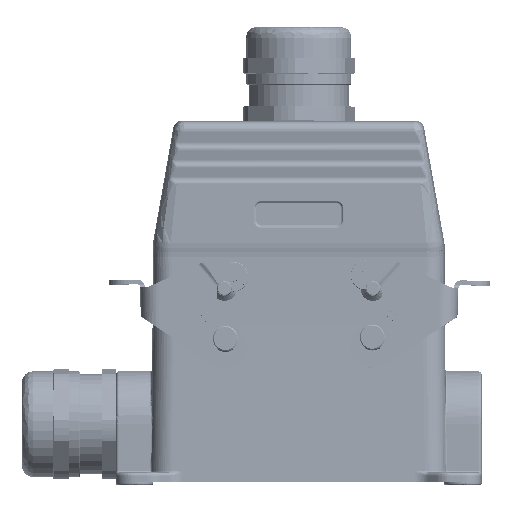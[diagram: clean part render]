
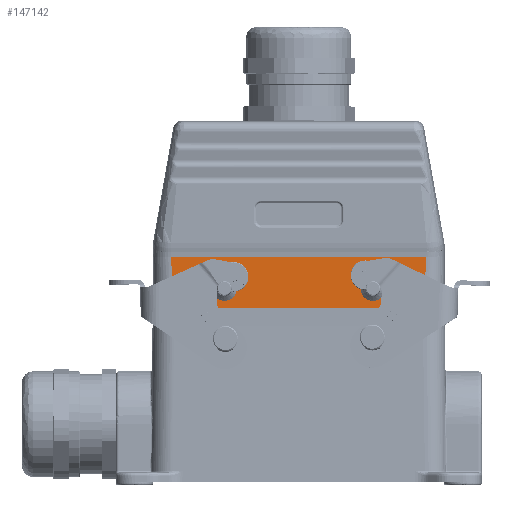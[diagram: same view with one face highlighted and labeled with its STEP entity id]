
A CAD part, top view. The second image highlights one B-rep face of the part: STEP entity #147142.
In plain terms, the highlighted planar face has unit normal (0, 0, 1) as drawn and (0, -1, 0) by its records, which use the part's own axes.
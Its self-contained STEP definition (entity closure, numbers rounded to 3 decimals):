
#768 = VERTEX_POINT ( 'NONE', #114945 ) ;
#1514 = EDGE_CURVE ( 'NONE', #307071, #9452, #224453, .T. ) ;
#1857 = CARTESIAN_POINT ( 'NONE',  ( -40.331, -21.5, 6.744 ) ) ;
#2270 = DIRECTION ( 'NONE',  ( 0., 0., 1. ) ) ;
#3456 = CARTESIAN_POINT ( 'NONE',  ( -40.44, -21.5, 8.473 ) ) ;
#4784 = VERTEX_POINT ( 'NONE', #250731 ) ;
#6604 = CARTESIAN_POINT ( 'NONE',  ( -39.889, -21.5, 0. ) ) ;
#8212 = LINE ( 'NONE', #34004, #32474 ) ;
#9192 = ORIENTED_EDGE ( 'NONE', *, *, #13686, .T. ) ;
#9452 = VERTEX_POINT ( 'NONE', #113383 ) ;
#13218 = CARTESIAN_POINT ( 'NONE',  ( -23.75, -21.5, 6.3 ) ) ;
#13686 = EDGE_CURVE ( 'NONE', #4784, #128837, #213262, .T. ) ;
#17526 = PLANE ( 'NONE',  #243536 ) ;
#22740 = VERTEX_POINT ( 'NONE', #46615 ) ;
#26021 = CARTESIAN_POINT ( 'NONE',  ( -40.623, -21.5, 11.618 ) ) ;
#27611 = CARTESIAN_POINT ( 'NONE',  ( -40.815, -21.5, 15.576 ) ) ;
#29233 = CARTESIAN_POINT ( 'NONE',  ( -40.656, -21.5, 12.233 ) ) ;
#30821 = CARTESIAN_POINT ( 'NONE',  ( -40.165, -21.5, 4.163 ) ) ;
#31094 = VECTOR ( 'NONE', #186483, 1000. ) ;
#32474 = VECTOR ( 'NONE', #306345, 1000. ) ;
#34004 = CARTESIAN_POINT ( 'NONE',  ( -73.25, -21.5, 16.289 ) ) ;
#35528 = EDGE_CURVE ( 'NONE', #128837, #4784, #257950, .T. ) ;
#35828 = DIRECTION ( 'NONE',  ( 0., 0., 1. ) ) ;
#38447 = CARTESIAN_POINT ( 'NONE',  ( -23.75, -21.5, 2.3 ) ) ;
#42253 = EDGE_LOOP ( 'NONE', ( #210118, #240692 ) ) ;
#46615 = CARTESIAN_POINT ( 'NONE',  ( -39.889, -21.5, 0. ) ) ;
#48464 = ORIENTED_EDGE ( 'NONE', *, *, #172529, .T. ) ;
#50318 = CARTESIAN_POINT ( 'NONE',  ( -40.161, -21.5, 4.097 ) ) ;
#52140 = EDGE_CURVE ( 'NONE', #9452, #307071, #136452, .T. ) ;
#59771 = AXIS2_PLACEMENT_3D ( 'NONE', #223134, #295655, #2270 ) ;
#62504 = AXIS2_PLACEMENT_3D ( 'NONE', #152333, #128212, #205319 ) ;
#64769 = EDGE_LOOP ( 'NONE', ( #235946, #48464, #201344, #284656 ) ) ;
#68802 = LINE ( 'NONE', #287905, #31094 ) ;
#74417 = AXIS2_PLACEMENT_3D ( 'NONE', #13218, #206672, #35828 ) ;
#74573 = CARTESIAN_POINT ( 'NONE',  ( -40.06, -21.5, 2.546 ) ) ;
#76173 = CARTESIAN_POINT ( 'NONE',  ( -40.429, -21.5, 8.308 ) ) ;
#101953 = CARTESIAN_POINT ( 'NONE',  ( -40.387, -21.5, 7.634 ) ) ;
#105099 = CARTESIAN_POINT ( 'NONE',  ( -40.571, -21.5, 10.662 ) ) ;
#107843 = CARTESIAN_POINT ( 'NONE',  ( 40.012, -21.5, 1.888 ) ) ;
#110457 = CARTESIAN_POINT ( 'NONE',  ( -40.845, -21.5, 16.289 ) ) ;
#113383 = CARTESIAN_POINT ( 'NONE',  ( 23.75, -21.5, 10.3 ) ) ;
#113773 = VERTEX_POINT ( 'NONE', #110457 ) ;
#114945 = CARTESIAN_POINT ( 'NONE',  ( 39.889, -21.5, 0. ) ) ;
#115998 = DIRECTION ( 'NONE',  ( 0., -1., 0. ) ) ;
#124552 = CARTESIAN_POINT ( 'NONE',  ( -40.421, -21.5, 8.166 ) ) ;
#128212 = DIRECTION ( 'NONE',  ( 0., 1., 0. ) ) ;
#128552 = DIRECTION ( 'NONE',  ( 0., 0., 1. ) ) ;
#128837 = VERTEX_POINT ( 'NONE', #38447 ) ;
#129347 = CARTESIAN_POINT ( 'NONE',  ( -40.42, -21.5, 8.154 ) ) ;
#135464 = FACE_BOUND ( 'NONE', #42253, .T. ) ;
#136452 = CIRCLE ( 'NONE', #301025, 4. ) ;
#139749 = EDGE_CURVE ( 'NONE', #184424, #768, #168449, .T. ) ;
#147142 = ADVANCED_FACE ( 'NONE', ( #183704, #135464, #161092 ), #17526, .T. ) ;
#148735 = CARTESIAN_POINT ( 'NONE',  ( -40.845, -21.5, 16.289 ) ) ;
#151868 = CARTESIAN_POINT ( 'NONE',  ( -40.419, -21.5, 8.146 ) ) ;
#152333 = CARTESIAN_POINT ( 'NONE',  ( -23.75, -21.5, 6.3 ) ) ;
#153402 = ORIENTED_EDGE ( 'NONE', *, *, #35528, .T. ) ;
#153490 = CARTESIAN_POINT ( 'NONE',  ( -40.422, -21.5, 8.183 ) ) ;
#154641 = CARTESIAN_POINT ( 'NONE',  ( 40.377, -21.5, 7.314 ) ) ;
#159836 = EDGE_CURVE ( 'NONE', #184424, #113773, #8212, .T. ) ;
#161092 = FACE_BOUND ( 'NONE', #306267, .T. ) ;
#168366 = CARTESIAN_POINT ( 'NONE',  ( 40.845, -21.5, 16.289 ) ) ;
#168449 = B_SPLINE_CURVE_WITH_KNOTS ( 'NONE', 3,
 ( #181918, #202888, #154641, #107843, #175565 ),
 .UNSPECIFIED., .F., .F.,
 ( 4, 1, 4 ),
 ( 0., 0.652, 1. ),
 .UNSPECIFIED. ) ;
#172529 = EDGE_CURVE ( 'NONE', #22740, #768, #68802, .T. ) ;
#173600 = DIRECTION ( 'NONE',  ( 0., 1., 0. ) ) ;
#174403 = CARTESIAN_POINT ( 'NONE',  ( -40.424, -21.5, 8.225 ) ) ;
#175565 = CARTESIAN_POINT ( 'NONE',  ( 39.889, -21.5, 0. ) ) ;
#177564 = CARTESIAN_POINT ( 'NONE',  ( -40.183, -21.5, 4.437 ) ) ;
#179940 = CARTESIAN_POINT ( 'NONE',  ( 23.75, -21.5, 6.3 ) ) ;
#181918 = CARTESIAN_POINT ( 'NONE',  ( 40.845, -21.5, 16.289 ) ) ;
#183704 = FACE_OUTER_BOUND ( 'NONE', #64769, .T. ) ;
#184424 = VERTEX_POINT ( 'NONE', #168366 ) ;
#186483 = DIRECTION ( 'NONE',  ( 1., 0., 0. ) ) ;
#196926 = CARTESIAN_POINT ( 'NONE',  ( -40.25, -21.5, 5.482 ) ) ;
#198507 = CARTESIAN_POINT ( 'NONE',  ( -40.769, -21.5, 14.531 ) ) ;
#200113 = CARTESIAN_POINT ( 'NONE',  ( -40.171, -21.5, 4.255 ) ) ;
#201344 = ORIENTED_EDGE ( 'NONE', *, *, #139749, .F. ) ;
#202888 = CARTESIAN_POINT ( 'NONE',  ( 40.706, -21.5, 12.744 ) ) ;
#203288 = CARTESIAN_POINT ( 'NONE',  ( -40.662, -21.5, 12.356 ) ) ;
#205319 = DIRECTION ( 'NONE',  ( 0., 0., 1. ) ) ;
#206672 = DIRECTION ( 'NONE',  ( 0., 1., 0. ) ) ;
#210118 = ORIENTED_EDGE ( 'NONE', *, *, #52140, .T. ) ;
#212598 = DIRECTION ( 'NONE',  ( 0., 0., -1. ) ) ;
#213262 = CIRCLE ( 'NONE', #74417, 4. ) ;
#223134 = CARTESIAN_POINT ( 'NONE',  ( 23.75, -21.5, 6.3 ) ) ;
#224320 = CARTESIAN_POINT ( 'NONE',  ( -39.97, -21.5, 1.189 ) ) ;
#224453 = CIRCLE ( 'NONE', #59771, 4. ) ;
#227514 = CARTESIAN_POINT ( 'NONE',  ( -40.163, -21.5, 4.123 ) ) ;
#228281 = EDGE_CURVE ( 'NONE', #113773, #22740, #288737, .T. ) ;
#235946 = ORIENTED_EDGE ( 'NONE', *, *, #228281, .T. ) ;
#240692 = ORIENTED_EDGE ( 'NONE', *, *, #1514, .T. ) ;
#243536 = AXIS2_PLACEMENT_3D ( 'NONE', #285128, #115998, #212598 ) ;
#250731 = CARTESIAN_POINT ( 'NONE',  ( -23.75, -21.5, 10.3 ) ) ;
#251676 = CARTESIAN_POINT ( 'NONE',  ( -40.669, -21.5, 12.497 ) ) ;
#257950 = CIRCLE ( 'NONE', #62504, 4. ) ;
#271135 = CARTESIAN_POINT ( 'NONE',  ( -40.684, -21.5, 12.782 ) ) ;
#272716 = CARTESIAN_POINT ( 'NONE',  ( -40.206, -21.5, 4.795 ) ) ;
#274282 = CARTESIAN_POINT ( 'NONE',  ( -40.498, -21.5, 9.438 ) ) ;
#284656 = ORIENTED_EDGE ( 'NONE', *, *, #159836, .T. ) ;
#285128 = CARTESIAN_POINT ( 'NONE',  ( -73.25, -21.5, 0. ) ) ;
#287905 = CARTESIAN_POINT ( 'NONE',  ( -13.25, -21.5, 0. ) ) ;
#288737 = B_SPLINE_CURVE_WITH_KNOTS ( 'NONE', 3,
 ( #148735, #27611, #198507, #298426, #271135, #251676, #203288, #295249, #301597, #29233, #26021, #105099, #274282, #299998, #3456, #76173, #174403, #153490, #124552, #129347, #151868, #101953, #1857, #196926, #272716, #177564, #200113, #30821, #227514, #50318, #296833, #74573, #224320, #6604 ),
 .UNSPECIFIED., .F., .F.,
 ( 4, 1, 1, 1, 1, 1, 2, 2, 1, 1, 1, 1, 1, 1, 1, 2, 2, 1, 1, 1, 1, 1, 1, 2, 2, 4 ),
 ( 0., 0.125, 0.188, 0.219, 0.234, 0.242, 0.246, 0.25, 0.375, 0.438, 0.469, 0.484, 0.492, 0.496, 0.498, 0.499, 0.5, 0.625, 0.688, 0.719, 0.734, 0.742, 0.746, 0.748, 0.75, 1. ),
 .UNSPECIFIED. ) ;
#295249 = CARTESIAN_POINT ( 'NONE',  ( -40.659, -21.5, 12.295 ) ) ;
#295655 = DIRECTION ( 'NONE',  ( 0., 1., 0. ) ) ;
#296833 = CARTESIAN_POINT ( 'NONE',  ( -40.16, -21.5, 4.082 ) ) ;
#298426 = CARTESIAN_POINT ( 'NONE',  ( -40.713, -21.5, 13.357 ) ) ;
#299998 = CARTESIAN_POINT ( 'NONE',  ( -40.46, -21.5, 8.799 ) ) ;
#301025 = AXIS2_PLACEMENT_3D ( 'NONE', #179940, #173600, #128552 ) ;
#301597 = CARTESIAN_POINT ( 'NONE',  ( -40.657, -21.5, 12.255 ) ) ;
#306267 = EDGE_LOOP ( 'NONE', ( #9192, #153402 ) ) ;
#306345 = DIRECTION ( 'NONE',  ( -1., 0., 0. ) ) ;
#307071 = VERTEX_POINT ( 'NONE', #311754 ) ;
#311754 = CARTESIAN_POINT ( 'NONE',  ( 23.75, -21.5, 2.3 ) ) ;
